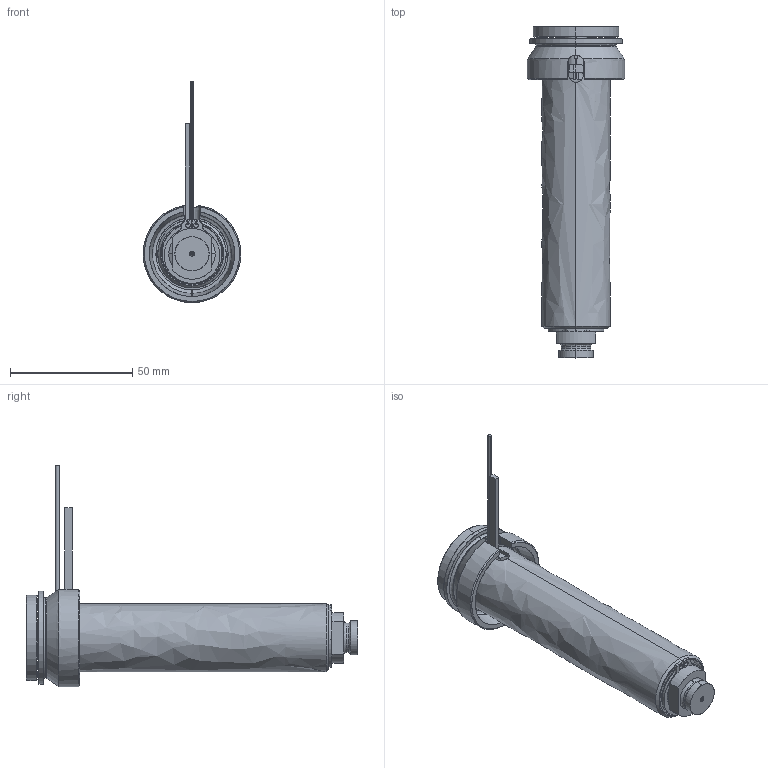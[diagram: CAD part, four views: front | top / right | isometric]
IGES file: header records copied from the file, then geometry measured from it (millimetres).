
Start section: SolidWorks IGES file using analytic representation for surfaces
Global section: file name: C:\Documents and Settings\ws-20\Desktop\TEM\UGEP4103-S-A-1 [Øf-0.88 P-0 ØC-09].IGS; native system: SolidWorks 2012; preprocessor: SolidWorks 2012; author: ws-20; date: 120426.085100; units: millimetre
Bounding box: 40 x 136 x 90.65 mm (x, y, z)
Surface area: 43863.2 mm2 (no closed solid volume)
Topology: 0 solids, 0 shells, 111 faces, 1851 edges, 1851 vertices
Faces by surface type: revolution 68, bspline 43
